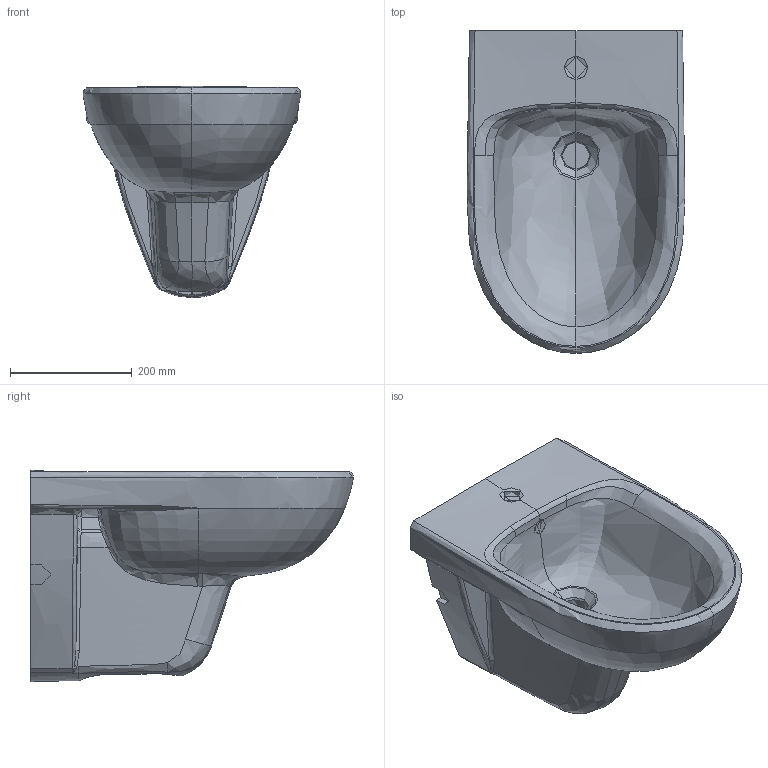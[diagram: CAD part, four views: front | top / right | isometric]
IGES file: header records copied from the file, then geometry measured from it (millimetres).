
Global section: file name: 500264; native system: Autodesk Inventor 2018; preprocessor: unknown; author: JANAN; date: 20200527.082430; units: millimetre
Bounding box: 357.53 x 530 x 347 mm (x, y, z)
Volume: 19640915.1 mm3; surface area: 756497.2 mm2
Topology: 1 solids, 1 shells, 225 faces, 587 edges, 366 vertices
Faces by surface type: bspline 225
